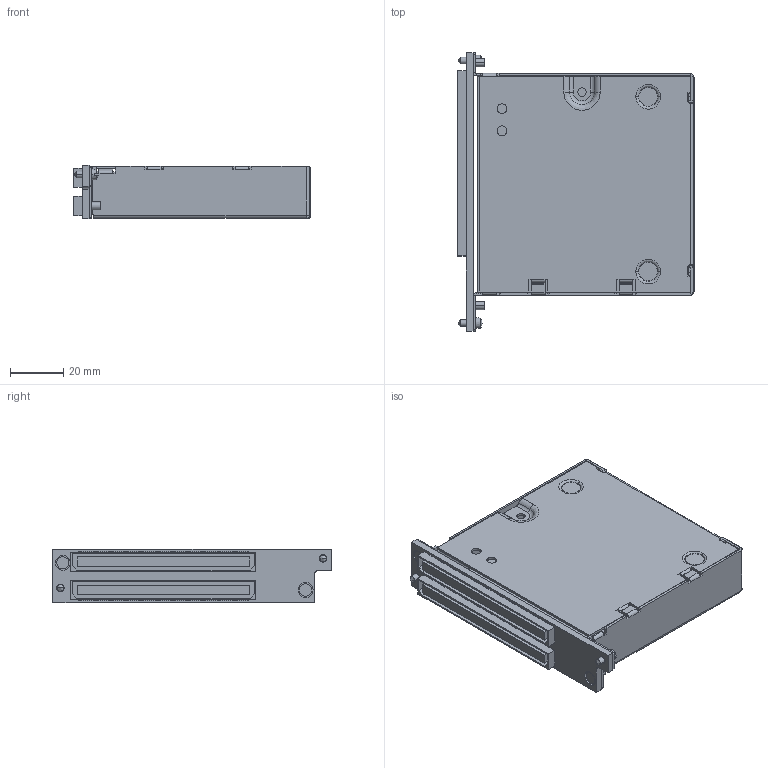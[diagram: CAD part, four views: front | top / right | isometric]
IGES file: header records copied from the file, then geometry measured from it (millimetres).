
Start section:  PTC IGES file: cu_tb-2643.igs
Global section: file name: cu_tb-2643.igs; native system: Pro/ENGINEER by Parametric Technology Corporation; preprocessor: 2010230; author: jjorden; organization: Unknown; date: 20110812.215715; units: inch
Bounding box: 88.62 x 104.04 x 20.02 mm (x, y, z)
Surface area: 45226.7 mm2 (no closed solid volume)
Topology: 0 solids, 0 shells, 1835 faces, 10406 edges, 10402 vertices
Faces by surface type: bspline 1654, revolution 181
